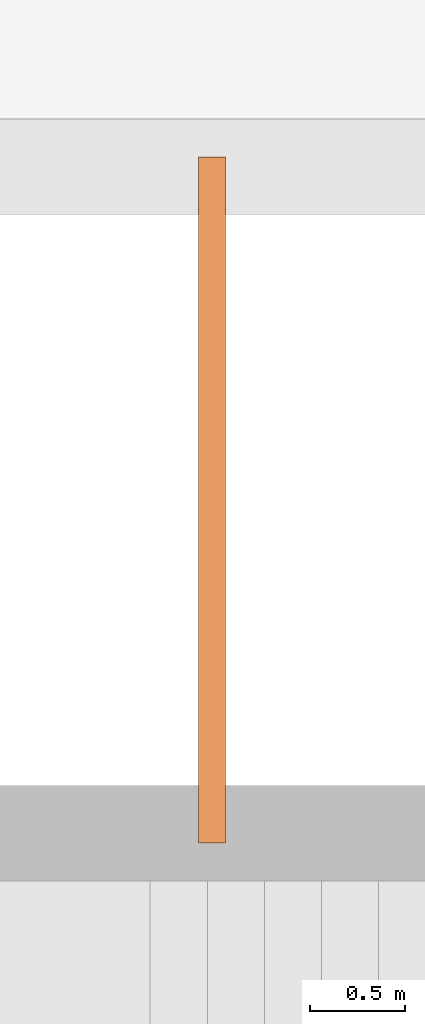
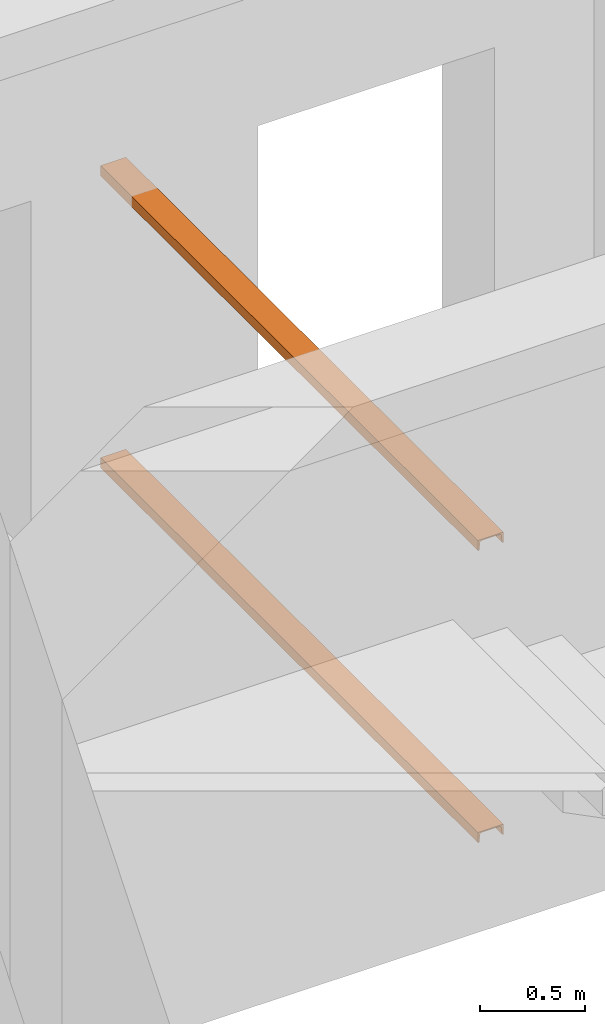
# One storey, part 49 of 50: 2 proxies.
"""IFC4 building model written with IfcOpenShell, lengths in metres."""

from ifc_helpers import new_model, entity, si_unit, converted_unit, derived_unit, frame, origin, origin_with_axes, place, context, subcontext, project, spatial, faceted_brep, source, transform, mapped, material, element, save


model = new_model("IFC4")

# Units and contexts
model_context = context("Model", 3, precision=1e-05, world=origin())
body_context = subcontext(model_context, "Body", "Model", "MODEL_VIEW")
ifc_project = project(units=[si_unit("LENGTHUNIT", "METRE"), si_unit("AREAUNIT", "SQUARE_METRE"), si_unit("VOLUMEUNIT", "CUBIC_METRE"), si_unit("MASSUNIT", "GRAM", prefix="KILO"), converted_unit("PLANEANGLEUNIT", "DEGREE", entity("IfcPlaneAngleMeasure", 0.0174532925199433), si_unit("PLANEANGLEUNIT", "RADIAN"), dimensions=[0, 0, 0, 0, 0, 0, 0]), derived_unit("THERMALTRANSMITTANCEUNIT", [(si_unit("POWERUNIT", "WATT"), 1), (si_unit("THERMODYNAMICTEMPERATUREUNIT", "KELVIN"), -1), (si_unit("LENGTHUNIT", "METRE"), -2)]), derived_unit("VOLUMETRICFLOWRATEUNIT", [(si_unit("LENGTHUNIT", "METRE"), 3), (converted_unit("TIMEUNIT", "hour", entity("IfcTimeMeasure", 3600.0), si_unit("TIMEUNIT", "SECOND"), dimensions=[0, 0, 1, 0, 0, 0, 0]), -1), (si_unit("LENGTHUNIT", "METRE"), -1)])], contexts=[model_context])

# Site, building, storey
site_placement = place(None, origin())
site = spatial("IfcSite", under=ifc_project, at=site_placement, Name="3. ASŘ", CompositionType="ELEMENT")
building_placement = place(site_placement, origin())
building = spatial("IfcBuilding", under=site, at=building_placement, Name="Pavilon C", CompositionType="ELEMENT")
storey_placement = place(building_placement, frame((0.0, 0.0, 3.6)))
storey = spatial("IfcBuildingStorey", under=building, at=storey_placement, Name="Půdorys 2.NP", CompositionType="ELEMENT", Elevation=3.6)

# Proxies
ifc_material_1 = material(Name="U 140")
shared_shape = source(origin_with_axes(), body_context, "Body", "Brep", [
    faceted_brep([(7.105427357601e-18, 0.0, 0.0), (0.06, 0.0, 0.0), (0.06, 0.14, 0.0), (7.105427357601e-18, 0.14, 0.0), (0.0, 0.137015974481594, 0.0), (0.000220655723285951, 0.135547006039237, 0.0), (0.000863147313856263, 0.134207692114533, 0.0), (0.00187076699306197, 0.133116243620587, 0.0), (0.00315457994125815, 0.132368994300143, 0.0), (0.00460127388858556, 0.132031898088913, 0.0), (0.0437974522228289, 0.128896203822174, 0.0), (0.0466908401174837, 0.128222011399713, 0.0), (0.0492584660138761, 0.126727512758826, 0.0), (0.0512737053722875, 0.124544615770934, 0.0), (0.0525586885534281, 0.121865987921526, 0.0), (0.053, 0.118928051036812, 0.0), (0.053, 0.0210719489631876, 0.0), (0.0525586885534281, 0.0181340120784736, 0.0), (0.0512737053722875, 0.0154553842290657, 0.0), (0.0492584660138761, 0.0132724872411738, 0.0), (0.0466908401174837, 0.0117779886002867, 0.0), (0.0437974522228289, 0.0111037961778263, 0.0), (0.00460127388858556, 0.00796810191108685, 0.0), (0.00315457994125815, 0.00763100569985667, 0.0), (0.00187076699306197, 0.00688375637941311, 0.0), (0.000863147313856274, 0.00579230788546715, 0.0), (0.000220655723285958, 0.00445299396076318, 0.0), (7.105427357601e-18, 0.00298402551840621, 0.0), (0.06, 0.0, 3.6), (7.105427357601e-18, 0.0, 3.6), (7.105427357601e-18, 0.00298402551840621, 3.6), (0.000220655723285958, 0.00445299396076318, 3.6), (0.000863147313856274, 0.00579230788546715, 3.6), (0.00187076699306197, 0.00688375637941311, 3.6), (0.00315457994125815, 0.00763100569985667, 3.6), (0.00460127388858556, 0.00796810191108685, 3.6), (0.0437974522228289, 0.0111037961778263, 3.6), (0.0466908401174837, 0.0117779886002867, 3.6), (0.0492584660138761, 0.0132724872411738, 3.6), (0.0512737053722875, 0.0154553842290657, 3.6), (0.0525586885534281, 0.0181340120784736, 3.6), (0.053, 0.0210719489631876, 3.6), (0.053, 0.118928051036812, 3.6), (0.0525586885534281, 0.121865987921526, 3.6), (0.0512737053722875, 0.124544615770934, 3.6), (0.0492584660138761, 0.126727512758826, 3.6), (0.0466908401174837, 0.128222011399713, 3.6), (0.0437974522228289, 0.128896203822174, 3.6), (0.00460127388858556, 0.132031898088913, 3.6), (0.00315457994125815, 0.132368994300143, 3.6), (0.00187076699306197, 0.133116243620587, 3.6), (0.000863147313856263, 0.134207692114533, 3.6), (0.000220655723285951, 0.135547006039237, 3.6), (0.0, 0.137015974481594, 3.6), (7.105427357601e-18, 0.14, 3.6), (0.06, 0.14, 3.6)], [[[0, 1, 2, 3, 4, 5, 6, 7, 8, 9, 10, 11, 12, 13, 14, 15, 16, 17, 18, 19, 20, 21, 22, 23, 24, 25, 26, 27]], [[28, 29, 30, 31, 32, 33, 34, 35, 36, 37, 38, 39, 40, 41, 42, 43, 44, 45, 46, 47, 48, 49, 50, 51, 52, 53, 54, 55]], [[1, 0, 29, 28]], [[2, 1, 28, 55]], [[3, 2, 55, 54]], [[4, 3, 54, 53]], [[5, 4, 53, 52]], [[6, 5, 52, 51]], [[7, 6, 51, 50]], [[8, 7, 50, 49]], [[9, 8, 49, 48]], [[10, 9, 48, 47]], [[11, 10, 47, 46]], [[12, 11, 46, 45]], [[13, 12, 45, 44]], [[14, 13, 44, 43]], [[15, 14, 43, 42]], [[16, 15, 42, 41]], [[17, 16, 41, 40]], [[18, 17, 40, 39]], [[19, 18, 39, 38]], [[20, 19, 38, 37]], [[21, 20, 37, 36]], [[22, 21, 36, 35]], [[23, 22, 35, 34]], [[24, 23, 34, 33]], [[25, 24, 33, 32]], [[26, 25, 32, 31]], [[27, 26, 31, 30]], [[0, 27, 30, 29]]], orient=[[False], [False], [False], [False], [False], [False], [False], [False], [False], [False], [False], [False], [False], [False], [False], [False], [False], [False], [False], [False], [False], [False], [False], [False], [False], [False], [False], [False], [False], [False]]),
])
proxy_1_placement = place(storey_placement, frame((-6.52999999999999, 7.75, 0.14), z_axis=(-1.22464679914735e-16, -1.0, -2.44929359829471e-16), x_axis=(-5.34329236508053e-33, -2.44929359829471e-16, 1.0)))
element("IfcBuildingElementProxy", 1, at=proxy_1_placement, inside=storey, material=ifc_material_1, Name="Ocelový profil", context=body_context, shape_type="MappedRepresentation", body=[
    mapped(shared_shape, transform((0.0, 0.0, 0.0), x_axis=(1.0, 0.0, 0.0), y_axis=(0.0, 1.0, 0.0), z_axis=(0.0, 0.0, 1.0), scale=1.0)),
])
ifc_material_2 = material(Name="U 140")
proxy_2_placement = place(storey_placement, frame((-6.52999999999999, 7.75, 1.84), z_axis=(-1.22464679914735e-16, -1.0, -2.44929359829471e-16), x_axis=(-5.34329236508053e-33, -2.44929359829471e-16, 1.0)))
element("IfcBuildingElementProxy", 2, at=proxy_2_placement, inside=storey, material=ifc_material_2, Name="Ocelový profil", context=body_context, shape_type="MappedRepresentation", body=[
    mapped(shared_shape, transform((0.0, 0.0, 0.0), x_axis=(1.0, 0.0, 0.0), y_axis=(0.0, 1.0, 0.0), z_axis=(0.0, 0.0, 1.0), scale=1.0)),
])

save(model, "model.ifc")
